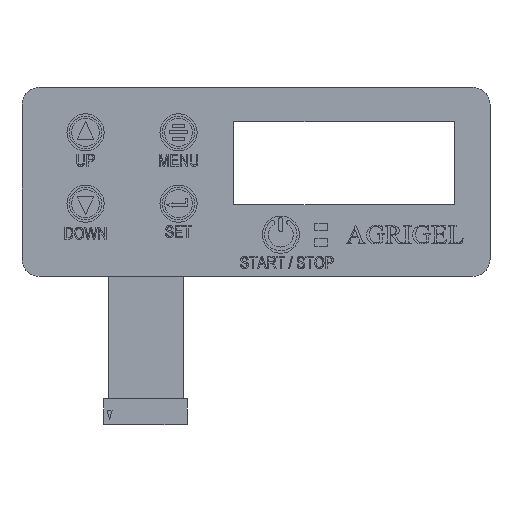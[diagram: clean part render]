
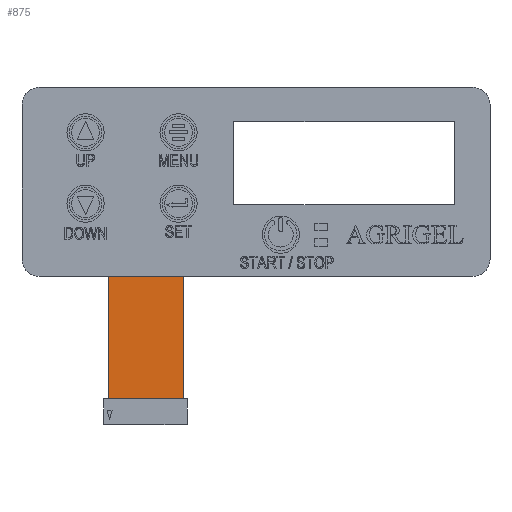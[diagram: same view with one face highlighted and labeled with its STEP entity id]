
A CAD part, top view. The second image highlights one B-rep face of the part: STEP entity #875.
In plain terms, the highlighted planar face has unit normal (0, 0, 1).
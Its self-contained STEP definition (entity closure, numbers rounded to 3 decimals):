
#875 = ADVANCED_FACE( '', ( #1948 ), #1949, .F. );
#1948 = FACE_OUTER_BOUND( '', #3284, .T. );
#1949 = PLANE( '', #3285 );
#3284 = EDGE_LOOP( '', ( #6377, #6378, #6379, #6380 ) );
#3285 = AXIS2_PLACEMENT_3D( '', #6381, #6382, #6383 );
#6377 = ORIENTED_EDGE( '', *, *, #9490, .F. );
#6378 = ORIENTED_EDGE( '', *, *, #9491, .F. );
#6379 = ORIENTED_EDGE( '', *, *, #9358, .F. );
#6380 = ORIENTED_EDGE( '', *, *, #9492, .F. );
#6381 = CARTESIAN_POINT( '', ( 0., 0., -1. ) );
#6382 = DIRECTION( '', ( 0., 0., -1. ) );
#6383 = DIRECTION( '', ( -1., 0., 0. ) );
#9358 = EDGE_CURVE( '', #11079, #11071, #11294, .T. );
#9490 = EDGE_CURVE( '', #11476, #11477, #11478, .T. );
#9491 = EDGE_CURVE( '', #11071, #11476, #11479, .T. );
#9492 = EDGE_CURVE( '', #11477, #11079, #11480, .T. );
#11071 = VERTEX_POINT( '', #14806 );
#11079 = VERTEX_POINT( '', #14819 );
#11294 = LINE( '', #15228, #15229 );
#11476 = VERTEX_POINT( '', #15720 );
#11477 = VERTEX_POINT( '', #15721 );
#11478 = LINE( '', #15722, #15723 );
#11479 = LINE( '', #15724, #15725 );
#11480 = LINE( '', #15726, #15727 );
#14806 = CARTESIAN_POINT( '', ( -23.5, -30.5, -1. ) );
#14819 = CARTESIAN_POINT( '', ( -47.5, -30.5, -1. ) );
#15228 = CARTESIAN_POINT( '', ( -75.5, -30.5, -1. ) );
#15229 = VECTOR( '', #17700, 1000. );
#15720 = CARTESIAN_POINT( '', ( -23.5, -69.915, -1. ) );
#15721 = CARTESIAN_POINT( '', ( -47.5, -69.915, -1. ) );
#15722 = CARTESIAN_POINT( '', ( -22.239, -69.915, -1. ) );
#15723 = VECTOR( '', #17787, 1000. );
#15724 = CARTESIAN_POINT( '', ( -23.5, -21.5, -1. ) );
#15725 = VECTOR( '', #17788, 1000. );
#15726 = CARTESIAN_POINT( '', ( -47.5, -71.5, -1. ) );
#15727 = VECTOR( '', #17789, 1000. );
#17700 = DIRECTION( '', ( 1., 0., 0. ) );
#17787 = DIRECTION( '', ( -1., 0., 0. ) );
#17788 = DIRECTION( '', ( 0., -1., 0. ) );
#17789 = DIRECTION( '', ( 0., 1., 0. ) );
